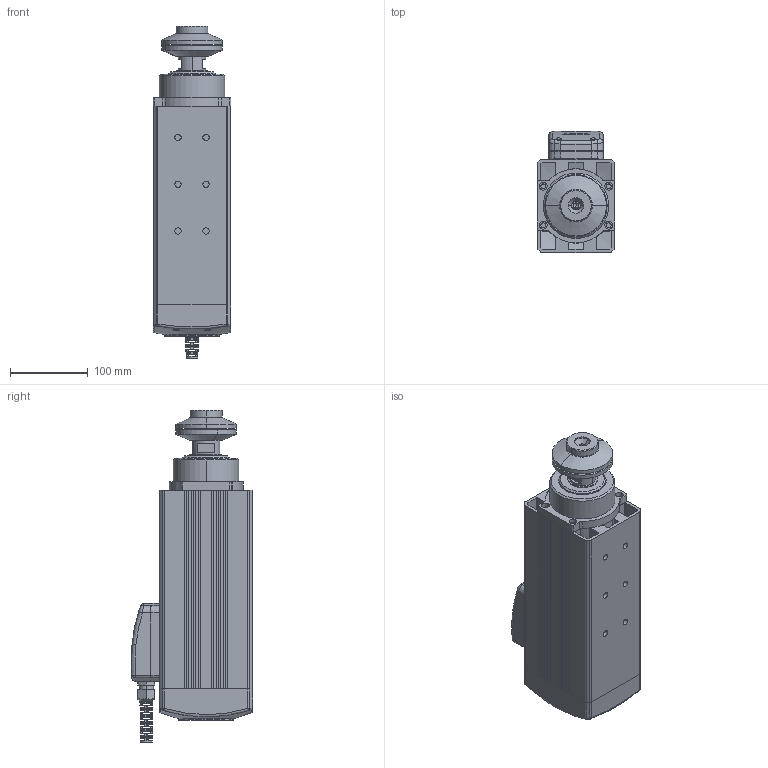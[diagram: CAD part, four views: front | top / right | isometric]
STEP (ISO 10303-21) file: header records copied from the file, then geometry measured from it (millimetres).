
FILE_DESCRIPTION (( 'STEP AP203' ), '1' );
FILE_NAME ('ARFM.3K-L Flanslý.STEP', '2022-04-04T11:28:03', ( '' ), ( '' ), 'SwSTEP 2.0', 'SolidWorks 2014', '' );
FILE_SCHEMA (( 'CONFIG_CONTROL_DESIGN' ));
Length unit declared in the file: millimetre
Products named in the file (16): Arfm.3Y Yeni Rotor Mili Flanslý; rekor1; 471-35 Sekman_98541A146; Arfm.3Y Ön Toz Kapaðý 62 lik; klemens kutusu montaj tabansýz; Klemens Kutusu  alt tabansýz; Flans; rekor2; ARFM.3K-L Flanslý; Etiket; ARFM.3K-L Gövdesi; Klemens Kutusu Kapaðý Kademeli; Flans Pulu; 3K Yeni 琄 Kapak; rekor3; Yeni 3K Tas Kapak K齭a
Assembly tree (16 placements, depth 3):
  ARFM.3K-L Flanslý
    3K Yeni 琄 Kapak
    Arfm.3Y Ön Toz Kapaðý 62 lik
    Etiket
    Yeni 3K Tas Kapak K齭a
    klemens kutusu montaj tabansýz
      Klemens Kutusu  alt tabansýz
      Klemens Kutusu Kapaðý Kademeli
      rekor1
      rekor2
      rekor3
    ARFM.3K-L Gövdesi
    Arfm.3Y Yeni Rotor Mili Flanslý
    Flans  x2
    Flans Pulu
    471-35 Sekman_98541A146
Bounding box: 100 x 156.24 x 426.3 mm (x, y, z)
Volume: 3037164.9 mm3; surface area: 432188.4 mm2
Topology: 15 solids, 15 shells, 1442 faces, 3918 edges, 2511 vertices
Faces by surface type: plane 706, cylinder 434, cone 168, bspline 106, sphere 18, torus 10
Entity records: 56261 total; most frequent: CARTESIAN_POINT 19508, ORIENTED_EDGE 7756, DIRECTION 6711, EDGE_CURVE 3878, VERTEX_POINT 2493, AXIS2_PLACEMENT_3D 2368, VECTOR 1975, LINE 1975
